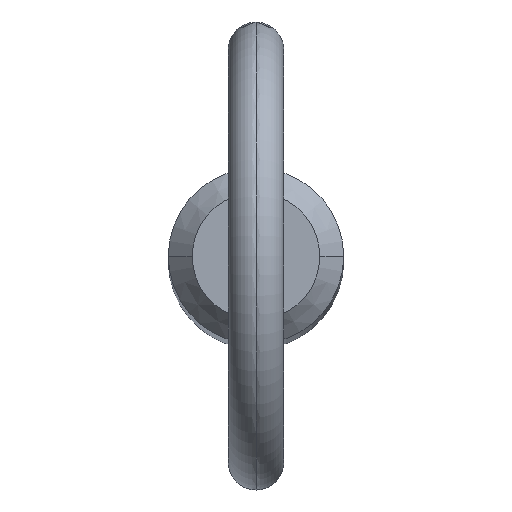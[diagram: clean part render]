
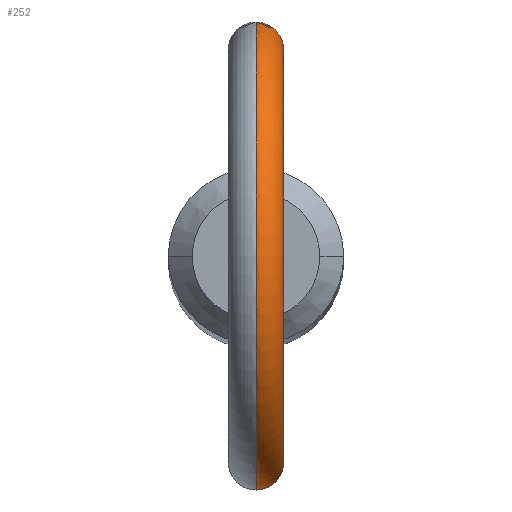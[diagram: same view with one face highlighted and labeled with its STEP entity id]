
A CAD part, top view. The second image highlights one B-rep face of the part: STEP entity #252.
In plain terms, the highlighted toroidal (fillet/blend) face has major radius 11.2 mm and minor radius 1.5 mm.
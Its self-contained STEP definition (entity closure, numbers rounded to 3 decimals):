
#2 = CARTESIAN_POINT ( 'NONE',  ( 1.188, 4.611, 145.727 ) ) ;
#9 = CARTESIAN_POINT ( 'NONE',  ( 0., 4.76, 143.126 ) ) ;
#23 = VERTEX_POINT ( 'NONE', #127 ) ;
#33 = CARTESIAN_POINT ( 'NONE',  ( 0., 0., 154.9 ) ) ;
#37 = DIRECTION ( 'NONE',  ( 0., 0., -1. ) ) ;
#38 = ORIENTED_EDGE ( 'NONE', *, *, #41, .F. ) ;
#41 = EDGE_CURVE ( 'NONE', #249, #524, #362, .T. ) ;
#42 = CARTESIAN_POINT ( 'NONE',  ( 0.415, 4.745, 146.388 ) ) ;
#44 = CARTESIAN_POINT ( 'NONE',  ( 0.968, 4.663, 143.449 ) ) ;
#47 = CIRCLE ( 'NONE', #496, 9.7 ) ;
#56 = CARTESIAN_POINT ( 'NONE',  ( 0.77, -4.698, 146.175 ) ) ;
#58 = CARTESIAN_POINT ( 'NONE',  ( 0.506, -4.734, 146.337 ) ) ;
#60 = CARTESIAN_POINT ( 'NONE',  ( 0.208, -4.757, 143.136 ) ) ;
#61 = CIRCLE ( 'NONE', #392, 12.7 ) ;
#62 = CARTESIAN_POINT ( 'NONE',  ( 1.434, -4.539, 145.154 ) ) ;
#64 = CARTESIAN_POINT ( 'NONE',  ( 1.503, -4.517, 144.64 ) ) ;
#84 = CARTESIAN_POINT ( 'NONE',  ( 0., 4.76, 146.448 ) ) ;
#85 = CARTESIAN_POINT ( 'NONE',  ( 1.385, 4.554, 144.03 ) ) ;
#87 = CARTESIAN_POINT ( 'NONE',  ( 0.104, 4.76, 143.126 ) ) ;
#97 = CARTESIAN_POINT ( 'NONE',  ( 1.404, -4.548, 145.253 ) ) ;
#99 = CARTESIAN_POINT ( 'NONE',  ( 1.385, -4.554, 144.032 ) ) ;
#103 = CARTESIAN_POINT ( 'NONE',  ( 1.344, -4.567, 143.939 ) ) ;
#105 = CARTESIAN_POINT ( 'NONE',  ( 1.499, -4.518, 144.537 ) ) ;
#107 = CARTESIAN_POINT ( 'NONE',  ( 0., 0., 154.9 ) ) ;
#122 = CARTESIAN_POINT ( 'NONE',  ( 1.343, 4.567, 143.937 ) ) ;
#127 = CARTESIAN_POINT ( 'NONE',  ( 0., -4.76, 143.126 ) ) ;
#134 = ORIENTED_EDGE ( 'NONE', *, *, #320, .T. ) ;
#138 = CARTESIAN_POINT ( 'NONE',  ( 0.512, -4.733, 143.208 ) ) ;
#140 = ORIENTED_EDGE ( 'NONE', *, *, #400, .F. ) ;
#143 = CARTESIAN_POINT ( 'NONE',  ( 0.797, -4.697, 143.329 ) ) ;
#161 = CARTESIAN_POINT ( 'NONE',  ( 0.795, 4.697, 143.328 ) ) ;
#164 = CARTESIAN_POINT ( 'NONE',  ( 1.508, 4.515, 144.537 ) ) ;
#170 = CARTESIAN_POINT ( 'NONE',  ( 1.484, 4.523, 144.328 ) ) ;
#171 = CARTESIAN_POINT ( 'NONE',  ( 0.511, 4.733, 143.208 ) ) ;
#180 = EDGE_CURVE ( 'NONE', #277, #23, #512, .T. ) ;
#184 = CARTESIAN_POINT ( 'NONE',  ( 0., -4.76, 146.448 ) ) ;
#185 = CARTESIAN_POINT ( 'NONE',  ( 1.19, -4.611, 145.724 ) ) ;
#186 = CARTESIAN_POINT ( 'NONE',  ( 1.45, -4.534, 144.228 ) ) ;
#192 = CARTESIAN_POINT ( 'NONE',  ( 0., 0., 154.9 ) ) ;
#199 = DIRECTION ( 'NONE',  ( 1., 0., 0. ) ) ;
#209 = CARTESIAN_POINT ( 'NONE',  ( 1.239, 4.596, 143.759 ) ) ;
#214 = CARTESIAN_POINT ( 'NONE',  ( 0.208, 4.76, 146.448 ) ) ;
#226 = CARTESIAN_POINT ( 'NONE',  ( 1.293, -4.582, 145.542 ) ) ;
#236 = CARTESIAN_POINT ( 'NONE',  ( 0., 4.76, 143.126 ) ) ;
#249 = VERTEX_POINT ( 'NONE', #236 ) ;
#252 = ADVANCED_FACE ( 'NONE', ( #300 ), #331, .T. ) ;
#253 = CARTESIAN_POINT ( 'NONE',  ( 1.292, 4.582, 145.544 ) ) ;
#254 = DIRECTION ( 'NONE',  ( 1., 0., 0. ) ) ;
#255 = CARTESIAN_POINT ( 'NONE',  ( 1.441, 4.537, 145.159 ) ) ;
#257 = CARTESIAN_POINT ( 'NONE',  ( 0.685, 4.711, 146.236 ) ) ;
#270 = AXIS2_PLACEMENT_3D ( 'NONE', #33, #284, #432 ) ;
#272 = CARTESIAN_POINT ( 'NONE',  ( 0.105, -4.76, 143.126 ) ) ;
#274 = CARTESIAN_POINT ( 'NONE',  ( 1.24, -4.596, 143.76 ) ) ;
#277 = VERTEX_POINT ( 'NONE', #279 ) ;
#279 = CARTESIAN_POINT ( 'NONE',  ( 0., -4.76, 146.448 ) ) ;
#284 = DIRECTION ( 'NONE',  ( 1., 0., 0. ) ) ;
#298 = CARTESIAN_POINT ( 'NONE',  ( 0.996, 4.655, 145.966 ) ) ;
#300 = FACE_OUTER_BOUND ( 'NONE', #321, .T. ) ;
#301 = CARTESIAN_POINT ( 'NONE',  ( 0.925, 4.67, 146.04 ) ) ;
#304 = CARTESIAN_POINT ( 'NONE',  ( 0.207, 4.757, 143.136 ) ) ;
#317 = CARTESIAN_POINT ( 'NONE',  ( 0.409, -4.743, 146.378 ) ) ;
#318 = CARTESIAN_POINT ( 'NONE',  ( 0.104, -4.76, 146.448 ) ) ;
#320 = EDGE_CURVE ( 'NONE', #249, #23, #61, .T. ) ;
#321 = EDGE_LOOP ( 'NONE', ( #38, #134, #326, #140 ) ) ;
#322 = CARTESIAN_POINT ( 'NONE',  ( 0.209, -4.756, 146.434 ) ) ;
#326 = ORIENTED_EDGE ( 'NONE', *, *, #180, .F. ) ;
#327 = DIRECTION ( 'NONE',  ( 0., 0., -1. ) ) ;
#331 = TOROIDAL_SURFACE ( 'NONE', #270, 11.2, 1.5 ) ;
#340 = CARTESIAN_POINT ( 'NONE',  ( 0.771, 4.698, 146.175 ) ) ;
#342 = CARTESIAN_POINT ( 'NONE',  ( 1.177, 4.613, 143.675 ) ) ;
#352 = CARTESIAN_POINT ( 'NONE',  ( 0.925, -4.67, 146.039 ) ) ;
#354 = CARTESIAN_POINT ( 'NONE',  ( 1.473, -4.526, 144.331 ) ) ;
#357 = CARTESIAN_POINT ( 'NONE',  ( 1.478, -4.525, 144.952 ) ) ;
#362 = B_SPLINE_CURVE_WITH_KNOTS ( 'NONE', 3,
 ( #9, #87, #304, #415, #171, #161, #44, #342, #209, #122, #85, #170, #164, #485, #255, #253, #2, #298, #301, #340, #257, #42, #214, #84 ),
 .UNSPECIFIED., .F., .F.,
 ( 4, 2, 2, 2, 2, 2, 2, 2, 2, 2, 2, 4 ),
 ( 0.001, 0.001, 0.001, 0.002, 0.002, 0.002, 0.003, 0.004, 0.004, 0.005, 0.005, 0.006 ),
 .UNSPECIFIED. ) ;
#387 = CARTESIAN_POINT ( 'NONE',  ( 0., -4.76, 143.126 ) ) ;
#391 = CARTESIAN_POINT ( 'NONE',  ( 0.97, -4.662, 143.45 ) ) ;
#392 = AXIS2_PLACEMENT_3D ( 'NONE', #192, #199, #327 ) ;
#393 = CARTESIAN_POINT ( 'NONE',  ( 1.178, -4.613, 143.676 ) ) ;
#400 = EDGE_CURVE ( 'NONE', #524, #277, #47, .T. ) ;
#415 = CARTESIAN_POINT ( 'NONE',  ( 0.411, 4.743, 143.177 ) ) ;
#431 = CARTESIAN_POINT ( 'NONE',  ( 1.492, -4.52, 144.848 ) ) ;
#432 = DIRECTION ( 'NONE',  ( 0., 0., -1. ) ) ;
#438 = CARTESIAN_POINT ( 'NONE',  ( 0., 4.76, 146.448 ) ) ;
#460 = CARTESIAN_POINT ( 'NONE',  ( 0.411, -4.743, 143.177 ) ) ;
#485 = CARTESIAN_POINT ( 'NONE',  ( 1.487, 4.522, 144.953 ) ) ;
#496 = AXIS2_PLACEMENT_3D ( 'NONE', #107, #254, #37 ) ;
#509 = CARTESIAN_POINT ( 'NONE',  ( 0.687, -4.711, 146.235 ) ) ;
#510 = CARTESIAN_POINT ( 'NONE',  ( 0.997, -4.655, 145.964 ) ) ;
#512 = B_SPLINE_CURVE_WITH_KNOTS ( 'NONE', 3,
 ( #184, #318, #322, #317, #58, #509, #56, #352, #510, #185, #226, #97, #62, #357, #431, #64, #105, #354, #186, #99, #103, #274, #393, #391, #143, #138, #460, #60, #272, #387 ),
 .UNSPECIFIED., .F., .F.,
 ( 4, 2, 2, 2, 2, 2, 2, 2, 2, 2, 2, 2, 2, 2, 4 ),
 ( 0.004, 0.005, 0.005, 0.005, 0.006, 0.006, 0.007, 0.007, 0.007, 0.007, 0.008, 0.008, 0.009, 0.009, 0.009 ),
 .UNSPECIFIED. ) ;
#524 = VERTEX_POINT ( 'NONE', #438 ) ;
